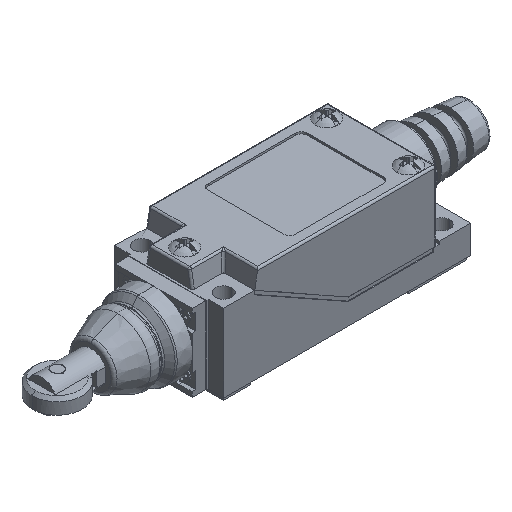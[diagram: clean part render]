
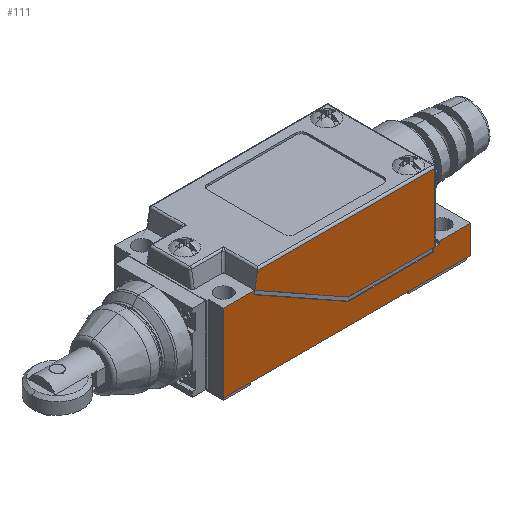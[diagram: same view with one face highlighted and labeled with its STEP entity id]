
A CAD part, isometric view. The second image highlights one B-rep face of the part: STEP entity #111.
In plain terms, the highlighted planar face has unit normal (0, -1, 0).
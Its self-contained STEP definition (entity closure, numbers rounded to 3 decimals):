
#111=ADVANCED_FACE('',(#701),#703,.T.);
#701=FACE_OUTER_BOUND('',#702,.T.);
#702=EDGE_LOOP('',(#3445,#3446,#3447,#3448,#3449,#3450,#3451,#3452,#3453,#3454,#3455,
#3456,#3457,#3458,#3459,#3460));
#703=PLANE('',#704);
#704=AXIS2_PLACEMENT_3D('',#705,#706,#707);
#705=CARTESIAN_POINT('',(0.,-14.,0.));
#706=DIRECTION('',(0.,-1.,0.));
#707=DIRECTION('',(1.,0.,0.));
#3445=ORIENTED_EDGE('',*,*,#5306,.T.);
#3446=ORIENTED_EDGE('',*,*,#5243,.T.);
#3447=ORIENTED_EDGE('',*,*,#5304,.T.);
#3448=ORIENTED_EDGE('',*,*,#5307,.T.);
#3449=ORIENTED_EDGE('',*,*,#5308,.T.);
#3450=ORIENTED_EDGE('',*,*,#5309,.T.);
#3451=ORIENTED_EDGE('',*,*,#5310,.T.);
#3452=ORIENTED_EDGE('',*,*,#5311,.T.);
#3453=ORIENTED_EDGE('',*,*,#5312,.T.);
#3454=ORIENTED_EDGE('',*,*,#5313,.F.);
#3455=ORIENTED_EDGE('',*,*,#5314,.F.);
#3456=ORIENTED_EDGE('',*,*,#5315,.T.);
#3457=ORIENTED_EDGE('',*,*,#5316,.T.);
#3458=ORIENTED_EDGE('',*,*,#5317,.T.);
#3459=ORIENTED_EDGE('',*,*,#5318,.T.);
#3460=ORIENTED_EDGE('',*,*,#5319,.T.);
#5243=EDGE_CURVE('',#6226,#6228,#6230,.T.);
#5304=EDGE_CURVE('',#6228,#6339,#6341,.T.);
#5306=EDGE_CURVE('',#6343,#6226,#6344,.T.);
#5307=EDGE_CURVE('',#6339,#6345,#6346,.T.);
#5308=EDGE_CURVE('',#6345,#6347,#6348,.T.);
#5309=EDGE_CURVE('',#6347,#6349,#6350,.F.);
#5310=EDGE_CURVE('',#6349,#6351,#6352,.F.);
#5311=EDGE_CURVE('',#6351,#6353,#6354,.F.);
#5312=EDGE_CURVE('',#6353,#6339,#6355,.F.);
#5313=EDGE_CURVE('',#6356,#6339,#6357,.T.);
#5314=EDGE_CURVE('',#6358,#6356,#6359,.T.);
#5315=EDGE_CURVE('',#6358,#6360,#6361,.T.);
#5316=EDGE_CURVE('',#6360,#6362,#6363,.T.);
#5317=EDGE_CURVE('',#6362,#6364,#6365,.F.);
#5318=EDGE_CURVE('',#6364,#6366,#6367,.F.);
#5319=EDGE_CURVE('',#6366,#6343,#6368,.F.);
#6226=VERTEX_POINT('',#7899);
#6228=VERTEX_POINT('',#7904);
#6230=LINE('',#7909,#7910);
#6339=VERTEX_POINT('',#8258);
#6341=LINE('',#8262,#8263);
#6343=VERTEX_POINT('',#8269);
#6344=LINE('',#8270,#8271);
#6345=VERTEX_POINT('',#8273);
#6346=LINE('',#8274,#8275);
#6347=VERTEX_POINT('',#8277);
#6348=LINE('',#8278,#8279);
#6349=VERTEX_POINT('',#8281);
#6350=LINE('',#8282,#8283);
#6351=VERTEX_POINT('',#8285);
#6352=LINE('',#8286,#8287);
#6353=VERTEX_POINT('',#8289);
#6354=LINE('',#8290,#8291);
#6355=LINE('',#8293,#8294);
#6356=VERTEX_POINT('',#8296);
#6357=LINE('',#8297,#8298);
#6358=VERTEX_POINT('',#8300);
#6359=LINE('',#8301,#8302);
#6360=VERTEX_POINT('',#8304);
#6361=LINE('',#8305,#8306);
#6362=VERTEX_POINT('',#8308);
#6363=LINE('',#8309,#8310);
#6364=VERTEX_POINT('',#8312);
#6365=LINE('',#8313,#8314);
#6366=VERTEX_POINT('',#8316);
#6367=LINE('',#8317,#8318);
#6368=LINE('',#8320,#8321);
#7899=CARTESIAN_POINT('',(54.25,-14.,24.));
#7904=CARTESIAN_POINT('',(8.72,-14.,24.));
#7909=CARTESIAN_POINT('',(54.25,-14.,24.));
#7910=VECTOR('',#7911,1.);
#7911=DIRECTION('',(-1.,0.,0.));
#8258=CARTESIAN_POINT('',(8.,-14.,20.));
#8262=CARTESIAN_POINT('',(8.72,-14.,24.));
#8263=VECTOR('',#8264,1.);
#8264=DIRECTION('',(-0.177,0.,-0.984));
#8269=CARTESIAN_POINT('',(54.25,-14.,6.5));
#8270=CARTESIAN_POINT('',(54.25,-14.,6.5));
#8271=VECTOR('',#8272,1.);
#8272=DIRECTION('',(0.,0.,1.));
#8273=CARTESIAN_POINT('',(32.,-14.,6.5));
#8274=CARTESIAN_POINT('',(8.,-14.,20.));
#8275=VECTOR('',#8276,1.);
#8276=DIRECTION('',(0.872,0.,-0.49));
#8277=CARTESIAN_POINT('',(54.,-14.,6.5));
#8278=CARTESIAN_POINT('',(32.,-14.,6.5));
#8279=VECTOR('',#8280,1.);
#8280=DIRECTION('',(1.,0.,0.));
#8281=CARTESIAN_POINT('',(54.,-14.,5.5));
#8282=CARTESIAN_POINT('',(54.,-14.,5.5));
#8283=VECTOR('',#8284,1.);
#8284=DIRECTION('',(0.,0.,1.));
#8285=CARTESIAN_POINT('',(32.,-14.,5.5));
#8286=CARTESIAN_POINT('',(32.,-14.,5.5));
#8287=VECTOR('',#8288,1.);
#8288=DIRECTION('',(1.,0.,0.));
#8289=CARTESIAN_POINT('',(8.,-14.,19.));
#8290=CARTESIAN_POINT('',(8.,-14.,19.));
#8291=VECTOR('',#8292,1.);
#8292=DIRECTION('',(0.872,0.,-0.49));
#8293=CARTESIAN_POINT('',(8.,-14.,20.));
#8294=VECTOR('',#8295,1.);
#8295=DIRECTION('',(0.,0.,-1.));
#8296=CARTESIAN_POINT('',(0.,-14.,20.));
#8297=CARTESIAN_POINT('',(0.,-14.,20.));
#8298=VECTOR('',#8299,1.);
#8299=DIRECTION('',(1.,0.,0.));
#8300=CARTESIAN_POINT('',(0.,-14.,0.));
#8301=CARTESIAN_POINT('',(0.,-14.,0.));
#8302=VECTOR('',#8303,1.);
#8303=DIRECTION('',(0.,0.,1.));
#8304=CARTESIAN_POINT('',(63.5,-14.,0.));
#8305=CARTESIAN_POINT('',(0.,-14.,0.));
#8306=VECTOR('',#8307,1.);
#8307=DIRECTION('',(1.,0.,0.));
#8308=CARTESIAN_POINT('',(63.5,-14.,7.2));
#8309=CARTESIAN_POINT('',(63.5,-14.,0.));
#8310=VECTOR('',#8311,1.);
#8311=DIRECTION('',(0.,0.,1.));
#8312=CARTESIAN_POINT('',(55.5,-14.,7.2));
#8313=CARTESIAN_POINT('',(55.5,-14.,7.2));
#8314=VECTOR('',#8315,1.);
#8315=DIRECTION('',(1.,0.,0.));
#8316=CARTESIAN_POINT('',(55.5,-14.,6.5));
#8317=CARTESIAN_POINT('',(55.5,-14.,6.5));
#8318=VECTOR('',#8319,1.);
#8319=DIRECTION('',(0.,0.,1.));
#8320=CARTESIAN_POINT('',(54.25,-14.,6.5));
#8321=VECTOR('',#8322,1.);
#8322=DIRECTION('',(1.,0.,0.));
